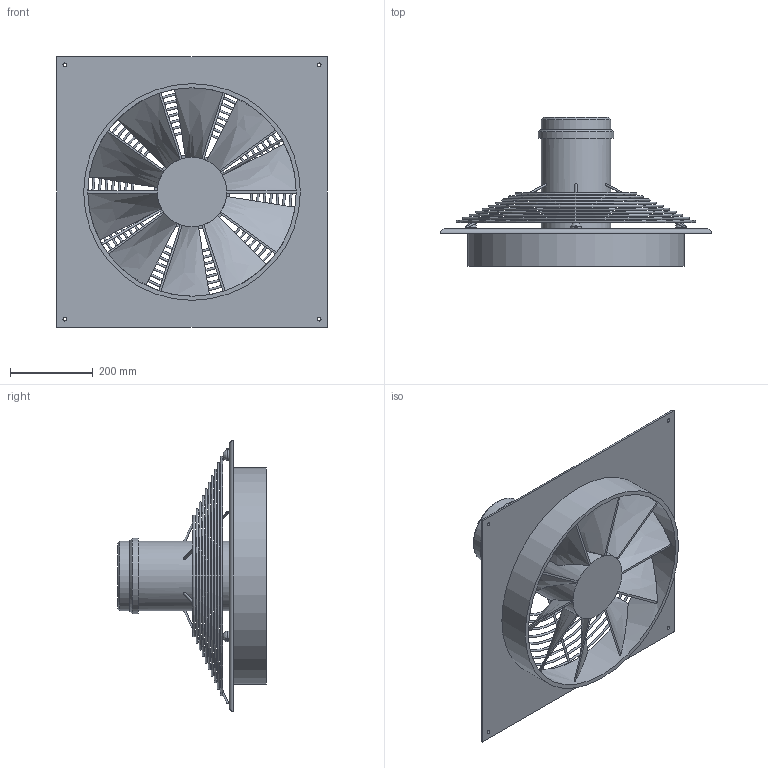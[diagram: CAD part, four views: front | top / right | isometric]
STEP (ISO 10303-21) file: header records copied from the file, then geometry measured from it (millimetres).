
FILE_DESCRIPTION(/* description */ (''),/* implementation_level */ '2;1');
FILE_NAME(/* name */ 'Z:\Output\HQD 500-6-6-01471-020.stp',/* time_stamp */ '2017-05-04T18:04:06+02:00',/* author */ ('pareshmistry'),/* organization */ (''),/* preprocessor_version */ 'ST-DEVELOPER v16.5',/* originating_system */ 'Autodesk Inventor 2017',/* authorisation */ '');
FILE_SCHEMA (('AUTOMOTIVE_DESIGN { 1 0 10303 214 3 1 1 }'));
Length unit declared in the file: millimetre
Products named in the file (1): HQW EC 450
Bounding box: 655 x 360 x 655 mm (x, y, z)
Volume: 12185307.6 mm3; surface area: 1605862.6 mm2
Topology: 11 solids, 11 shells, 113 faces, 310 edges, 197 vertices
Faces by surface type: bspline 43, plane 32, cylinder 26, torus 10, cone 2
Full cylindrical faces by diameter (mm): 5 x9, 9 x4, 25 x3, 168 x2, 182.55 x1, 504 x1, 524 x1
Entity records: 4356 total; most frequent: CARTESIAN_POINT 1996, ORIENTED_EDGE 514, DIRECTION 398, EDGE_CURVE 247, VERTEX_POINT 168, AXIS2_PLACEMENT_3D 155, EDGE_LOOP 147, ADVANCED_FACE 112
